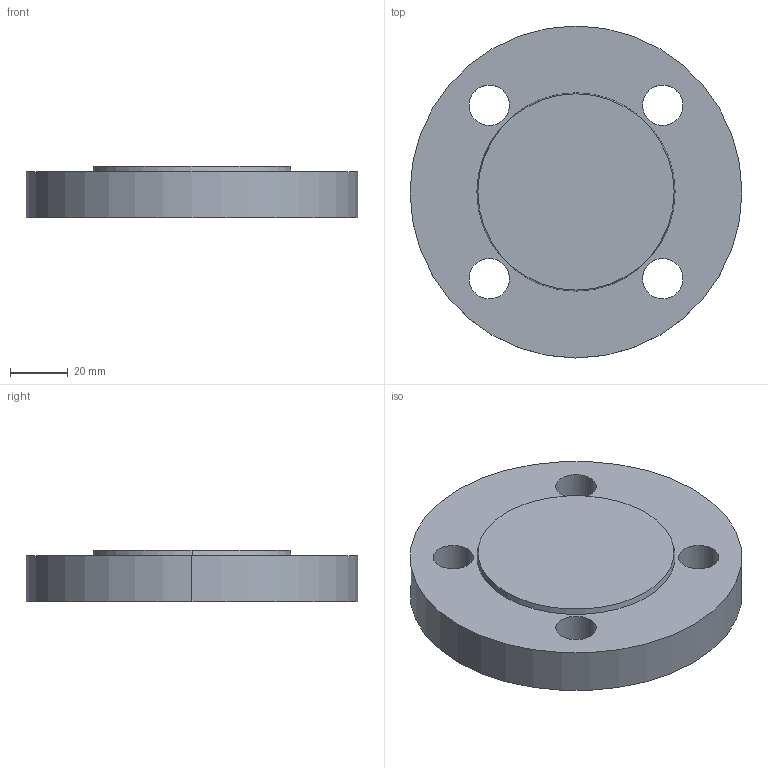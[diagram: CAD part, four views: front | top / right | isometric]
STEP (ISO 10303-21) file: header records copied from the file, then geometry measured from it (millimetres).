
FILE_DESCRIPTION (( 'STEP AP214' ), '1' );
FILE_NAME ('PN40 DN25 Type 05 - Type B Face.STEP', '2018-12-29T20:35:22', ( '' ), ( '' ), 'SwSTEP 2.0', 'SolidWorks 2019', '' );
FILE_SCHEMA (( 'AUTOMOTIVE_DESIGN' ));
Length unit declared in the file: millimetre
Products named in the file (1): PN40 DN25 Type 05 - Type B Face
Bounding box: 115 x 115 x 18 mm (x, y, z)
Volume: 163677.2 mm3; surface area: 28498 mm2
Topology: 1 solids, 1 shells, 15 faces, 36 edges, 24 vertices
Faces by surface type: cylinder 10, plane 3, cone 2
Entity records: 504 total; most frequent: DIRECTION 92, CARTESIAN_POINT 76, ORIENTED_EDGE 72, AXIS2_PLACEMENT_3D 40, EDGE_CURVE 36, CIRCLE 24, VERTEX_POINT 24, EDGE_LOOP 24
